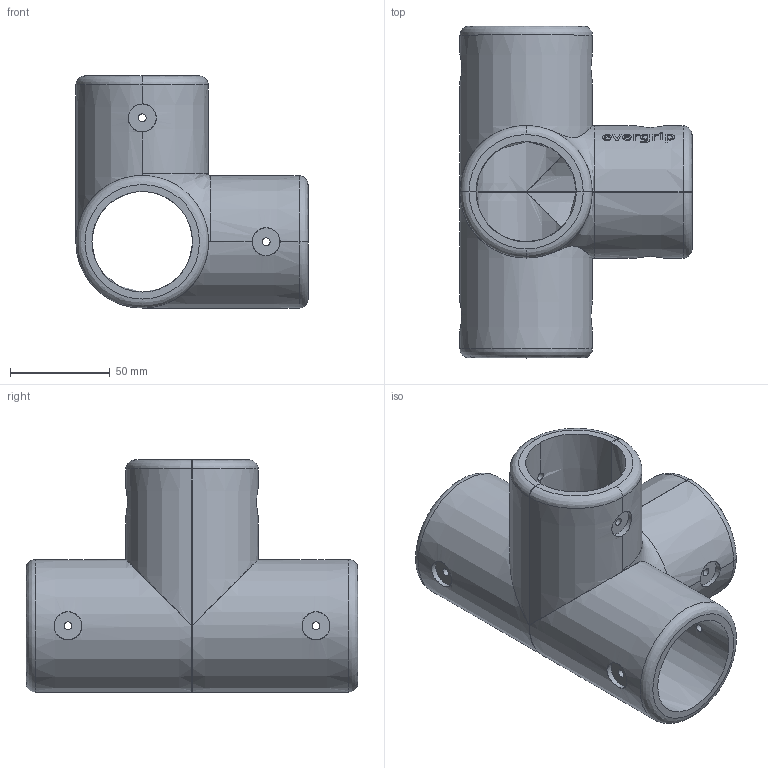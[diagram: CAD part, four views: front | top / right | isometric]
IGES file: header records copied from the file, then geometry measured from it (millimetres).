
Start section: SolidWorks IGES file using analytic representation for surfaces
Global section: file name: D:\Praca\Zlecenia prywatne\Konrad Izdebski Evergrip\KIE_018 Elementy z³¹czne\Dokumentacja\IGES\KIE_018.A19.IGS; native system: SolidWorks 2023; preprocessor: SolidWorks 2023; author: patry; date: 250225.102759; units: millimetre
Bounding box: 116.3 x 166.3 x 116.3 mm (x, y, z)
Surface area: 103413.8 mm2 (no closed solid volume)
Topology: 0 solids, 0 shells, 89 faces, 688 edges, 666 vertices
Faces by surface type: revolution 63, bspline 26
